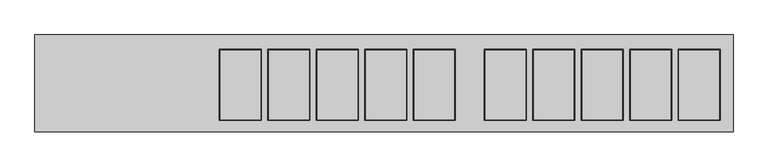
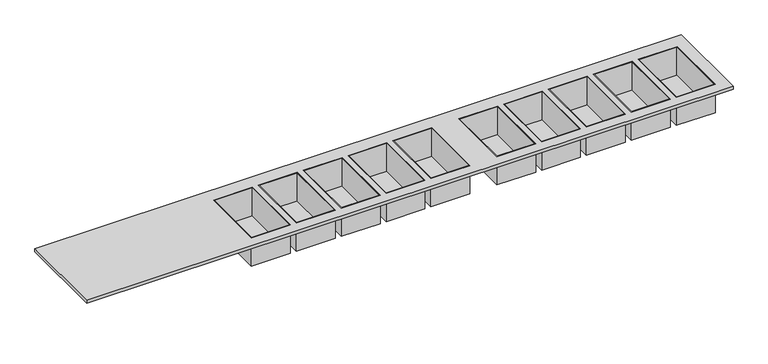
"""IFC4 building model written with IfcOpenShell, lengths in millimetres: proxy geometry, 常规模型 4 : 常规模型 4."""

from ifc_helpers import new_model, si_unit, frame, origin, place, context, project, spatial, polyline, outline, extrude, source, transform, mapped, element, save


def generic_models_9ddbb4ed(model_context):
    return source(origin(), model_context, "Body", "SweptSolid", [
        extrude(outline(polyline([(14164.7715486, -4720.3141114), (14164.7715486, -5150.3141114), (13914.7715486, -5150.3141114), (13914.7715486, -4720.3141114), (14164.7715486, -4720.3141114)])), frame((0.0, 0.0, 680.0), z_axis=(0.0, 0.0, 1.0), x_axis=(1.0, 0.0, 0.0)), (0.0, 0.0, 1.0), 2.0),
        extrude(outline(polyline([(14464.7715486, -4720.3141114), (14464.7715486, -5150.3141114), (14214.7715486, -5150.3141114), (14214.7715486, -4720.3141114), (14464.7715486, -4720.3141114)])), frame((0.0, 0.0, 680.0), z_axis=(0.0, 0.0, 1.0), x_axis=(1.0, 0.0, 0.0)), (0.0, 0.0, 1.0), 2.0),
        extrude(outline(polyline([(14764.7715486, -4720.3141114), (14764.7715486, -5150.3141114), (14514.7715486, -5150.3141114), (14514.7715486, -4720.3141114), (14764.7715486, -4720.3141114)])), frame((0.0, 0.0, 680.0), z_axis=(0.0, 0.0, 1.0), x_axis=(1.0, 0.0, 0.0)), (0.0, 0.0, 1.0), 2.0),
        extrude(outline(polyline([(15064.7715486, -4720.3141114), (15064.7715486, -5150.3141114), (14814.7715486, -5150.3141114), (14814.7715486, -4720.3141114), (15064.7715486, -4720.3141114)])), frame((0.0, 0.0, 680.0), z_axis=(0.0, 0.0, 1.0), x_axis=(1.0, 0.0, 0.0)), (0.0, 0.0, 1.0), 2.0),
        extrude(outline(polyline([(15364.7715486, -4720.3141114), (15364.7715486, -5150.3141114), (15114.7715486, -5150.3141114), (15114.7715486, -4720.3141114), (15364.7715486, -4720.3141114)])), frame((0.0, 0.0, 680.0), z_axis=(0.0, 0.0, 1.0), x_axis=(1.0, 0.0, 0.0)), (0.0, 0.0, 1.0), 2.0),
        extrude(outline(polyline([(15804.7715486, -4720.3141114), (15804.7715486, -5150.3141114), (15554.7715486, -5150.3141114), (15554.7715486, -4720.3141114), (15804.7715486, -4720.3141114)])), frame((0.0, 0.0, 680.0), z_axis=(0.0, 0.0, 1.0), x_axis=(1.0, 0.0, 0.0)), (0.0, 0.0, 1.0), 2.0),
        extrude(outline(polyline([(16104.7715486, -4720.3141114), (16104.7715486, -5150.3141114), (15854.7715486, -5150.3141114), (15854.7715486, -4720.3141114), (16104.7715486, -4720.3141114)])), frame((0.0, 0.0, 680.0), z_axis=(0.0, 0.0, 1.0), x_axis=(1.0, 0.0, 0.0)), (0.0, 0.0, 1.0), 2.0),
        extrude(outline(polyline([(16404.7715486, -4720.3141114), (16404.7715486, -5150.3141114), (16154.7715486, -5150.3141114), (16154.7715486, -4720.3141114), (16404.7715486, -4720.3141114)])), frame((0.0, 0.0, 680.0), z_axis=(0.0, 0.0, 1.0), x_axis=(1.0, 0.0, 0.0)), (0.0, 0.0, 1.0), 2.0),
        extrude(outline(polyline([(16704.7715486, -4720.3141114), (16704.7715486, -5150.3141114), (16454.7715486, -5150.3141114), (16454.7715486, -4720.3141114), (16704.7715486, -4720.3141114)])), frame((0.0, 0.0, 680.0), z_axis=(0.0, 0.0, 1.0), x_axis=(1.0, 0.0, 0.0)), (0.0, 0.0, 1.0), 2.0),
        extrude(outline(polyline([(17004.7715486, -4720.3141114), (17004.7715486, -5150.3141114), (16754.7715486, -5150.3141114), (16754.7715486, -4720.3141114), (17004.7715486, -4720.3141114)])), frame((0.0, 0.0, 680.0), z_axis=(0.0, 0.0, 1.0), x_axis=(1.0, 0.0, 0.0)), (0.0, 0.0, 1.0), 2.0),
        extrude(outline(polyline([(14169.7715486, -4715.3141114), (14169.7715486, -5155.3141114), (13909.7715486, -5155.3141114), (13909.7715486, -4715.3141114), (14169.7715486, -4715.3141114)]), holes=[polyline([(14164.7715486, -4720.3141114), (13914.7715486, -4720.3141114), (13914.7715486, -5150.3141114), (14164.7715486, -5150.3141114), (14164.7715486, -4720.3141114)])]), frame((0.0, 0.0, 680.0), z_axis=(0.0, 0.0, 1.0), x_axis=(1.0, 0.0, 0.0)), (0.0, 0.0, 1.0), 200.0),
        extrude(outline(polyline([(14469.7715486, -4715.3141114), (14469.7715486, -5155.3141114), (14209.7715486, -5155.3141114), (14209.7715486, -4715.3141114), (14469.7715486, -4715.3141114)]), holes=[polyline([(14464.7715486, -4720.3141114), (14214.7715486, -4720.3141114), (14214.7715486, -5150.3141114), (14464.7715486, -5150.3141114), (14464.7715486, -4720.3141114)])]), frame((0.0, 0.0, 680.0), z_axis=(0.0, 0.0, 1.0), x_axis=(1.0, 0.0, 0.0)), (0.0, 0.0, 1.0), 200.0),
        extrude(outline(polyline([(14769.7715486, -4715.3141114), (14769.7715486, -5155.3141114), (14509.7715486, -5155.3141114), (14509.7715486, -4715.3141114), (14769.7715486, -4715.3141114)]), holes=[polyline([(14764.7715486, -4720.3141114), (14514.7715486, -4720.3141114), (14514.7715486, -5150.3141114), (14764.7715486, -5150.3141114), (14764.7715486, -4720.3141114)])]), frame((0.0, 0.0, 680.0), z_axis=(0.0, 0.0, 1.0), x_axis=(1.0, 0.0, 0.0)), (0.0, 0.0, 1.0), 200.0),
        extrude(outline(polyline([(15069.7715486, -4715.3141114), (15069.7715486, -5155.3141114), (14809.7715486, -5155.3141114), (14809.7715486, -4715.3141114), (15069.7715486, -4715.3141114)]), holes=[polyline([(15064.7715486, -4720.3141114), (14814.7715486, -4720.3141114), (14814.7715486, -5150.3141114), (15064.7715486, -5150.3141114), (15064.7715486, -4720.3141114)])]), frame((0.0, 0.0, 680.0), z_axis=(0.0, 0.0, 1.0), x_axis=(1.0, 0.0, 0.0)), (0.0, 0.0, 1.0), 200.0),
        extrude(outline(polyline([(15369.7715486, -4715.3141114), (15369.7715486, -5155.3141114), (15109.7715486, -5155.3141114), (15109.7715486, -4715.3141114), (15369.7715486, -4715.3141114)]), holes=[polyline([(15364.7715486, -4720.3141114), (15114.7715486, -4720.3141114), (15114.7715486, -5150.3141114), (15364.7715486, -5150.3141114), (15364.7715486, -4720.3141114)])]), frame((0.0, 0.0, 680.0), z_axis=(0.0, 0.0, 1.0), x_axis=(1.0, 0.0, 0.0)), (0.0, 0.0, 1.0), 200.0),
        extrude(outline(polyline([(15809.7715486, -4715.3141114), (15809.7715486, -5155.3141114), (15549.7715486, -5155.3141114), (15549.7715486, -4715.3141114), (15809.7715486, -4715.3141114)]), holes=[polyline([(15804.7715486, -4720.3141114), (15554.7715486, -4720.3141114), (15554.7715486, -5150.3141114), (15804.7715486, -5150.3141114), (15804.7715486, -4720.3141114)])]), frame((0.0, 0.0, 680.0), z_axis=(0.0, 0.0, 1.0), x_axis=(1.0, 0.0, 0.0)), (0.0, 0.0, 1.0), 200.0),
        extrude(outline(polyline([(16109.7715486, -4715.3141114), (16109.7715486, -5155.3141114), (15849.7715486, -5155.3141114), (15849.7715486, -4715.3141114), (16109.7715486, -4715.3141114)]), holes=[polyline([(16104.7715486, -4720.3141114), (15854.7715486, -4720.3141114), (15854.7715486, -5150.3141114), (16104.7715486, -5150.3141114), (16104.7715486, -4720.3141114)])]), frame((0.0, 0.0, 680.0), z_axis=(0.0, 0.0, 1.0), x_axis=(1.0, 0.0, 0.0)), (0.0, 0.0, 1.0), 200.0),
        extrude(outline(polyline([(16409.7715486, -4715.3141114), (16409.7715486, -5155.3141114), (16149.7715486, -5155.3141114), (16149.7715486, -4715.3141114), (16409.7715486, -4715.3141114)]), holes=[polyline([(16404.7715486, -4720.3141114), (16154.7715486, -4720.3141114), (16154.7715486, -5150.3141114), (16404.7715486, -5150.3141114), (16404.7715486, -4720.3141114)])]), frame((0.0, 0.0, 680.0), z_axis=(0.0, 0.0, 1.0), x_axis=(1.0, 0.0, 0.0)), (0.0, 0.0, 1.0), 200.0),
        extrude(outline(polyline([(16709.7715486, -4715.3141114), (16709.7715486, -5155.3141114), (16449.7715486, -5155.3141114), (16449.7715486, -4715.3141114), (16709.7715486, -4715.3141114)]), holes=[polyline([(16704.7715486, -4720.3141114), (16454.7715486, -4720.3141114), (16454.7715486, -5150.3141114), (16704.7715486, -5150.3141114), (16704.7715486, -4720.3141114)])]), frame((0.0, 0.0, 680.0), z_axis=(0.0, 0.0, 1.0), x_axis=(1.0, 0.0, 0.0)), (0.0, 0.0, 1.0), 200.0),
        extrude(outline(polyline([(17009.7715486, -4715.3141114), (17009.7715486, -5155.3141114), (16749.7715486, -5155.3141114), (16749.7715486, -4715.3141114), (17009.7715486, -4715.3141114)]), holes=[polyline([(17004.7715486, -4720.3141114), (16754.7715486, -4720.3141114), (16754.7715486, -5150.3141114), (17004.7715486, -5150.3141114), (17004.7715486, -4720.3141114)])]), frame((0.0, 0.0, 680.0), z_axis=(0.0, 0.0, 1.0), x_axis=(1.0, 0.0, 0.0)), (0.0, 0.0, 1.0), 200.0),
        extrude(outline(polyline([(17089.7715486, -4625.464179), (17089.7715486, -5225.464179), (12767.3316161, -5225.464179), (12767.3316161, -4625.464179), (17089.7715486, -4625.464179)]), holes=[polyline([(14169.7715486, -4715.3141114), (13909.7715486, -4715.3141114), (13909.7715486, -5155.3141114), (14169.7715486, -5155.3141114), (14169.7715486, -4715.3141114)]), polyline([(14469.7715486, -4715.3141114), (14209.7715486, -4715.3141114), (14209.7715486, -5155.3141114), (14469.7715486, -5155.3141114), (14469.7715486, -4715.3141114)]), polyline([(14769.7715486, -4715.3141114), (14509.7715486, -4715.3141114), (14509.7715486, -5155.3141114), (14769.7715486, -5155.3141114), (14769.7715486, -4715.3141114)]), polyline([(15069.7715486, -4715.3141114), (14809.7715486, -4715.3141114), (14809.7715486, -5155.3141114), (15069.7715486, -5155.3141114), (15069.7715486, -4715.3141114)]), polyline([(15369.7715486, -4715.3141114), (15109.7715486, -4715.3141114), (15109.7715486, -5155.3141114), (15369.7715486, -5155.3141114), (15369.7715486, -4715.3141114)]), polyline([(15809.7715486, -4715.3141114), (15549.7715486, -4715.3141114), (15549.7715486, -5155.3141114), (15809.7715486, -5155.3141114), (15809.7715486, -4715.3141114)]), polyline([(16109.7715486, -4715.3141114), (15849.7715486, -4715.3141114), (15849.7715486, -5155.3141114), (16109.7715486, -5155.3141114), (16109.7715486, -4715.3141114)]), polyline([(16409.7715486, -4715.3141114), (16149.7715486, -4715.3141114), (16149.7715486, -5155.3141114), (16409.7715486, -5155.3141114), (16409.7715486, -4715.3141114)]), polyline([(16709.7715486, -4715.3141114), (16449.7715486, -4715.3141114), (16449.7715486, -5155.3141114), (16709.7715486, -5155.3141114), (16709.7715486, -4715.3141114)]), polyline([(17009.7715486, -4715.3141114), (16749.7715486, -4715.3141114), (16749.7715486, -5155.3141114), (17009.7715486, -5155.3141114), (17009.7715486, -4715.3141114)])]), frame((0.0, 0.0, 860.0), z_axis=(0.0, 0.0, 1.0), x_axis=(1.0, 0.0, 0.0)), (0.0, 0.0, 1.0), 20.0),
    ])


if __name__ == "__main__":
    model = new_model("IFC4")
    model_context = context("Model", 3, world=origin())
    ifc_project = project(units=[si_unit("LENGTHUNIT", "METRE", prefix="MILLI")], contexts=[model_context])
    site = spatial("IfcSite", under=ifc_project)
    building = spatial("IfcBuilding", under=site)
    placement = place(None, origin())
    generic_models_shape = generic_models_9ddbb4ed(model_context)
    element("IfcBuildingElementProxy", 1, Name="常规模型 4 : 常规模型 4", ObjectType="常规模型 4 : 常规模型 4", at=placement, inside=building, context=model_context, shape_type="MappedRepresentation", body=[
        mapped(generic_models_shape, transform((0.0, 0.0, 0.0), x_axis=(1.0, 0.0, 0.0), y_axis=(0.0, 1.0, 0.0), z_axis=(0.0, 0.0, 1.0))),
    ])
    save(model, "model.ifc")
